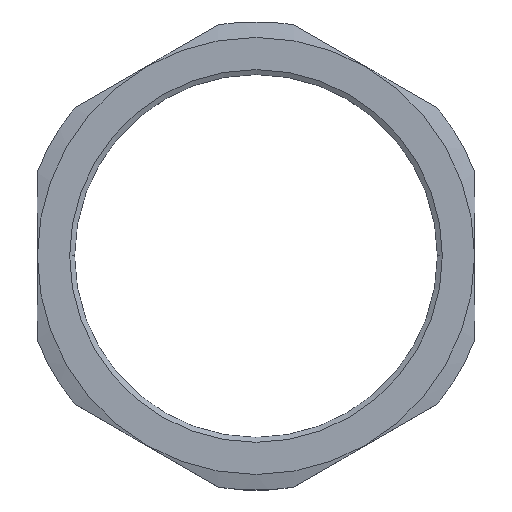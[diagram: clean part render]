
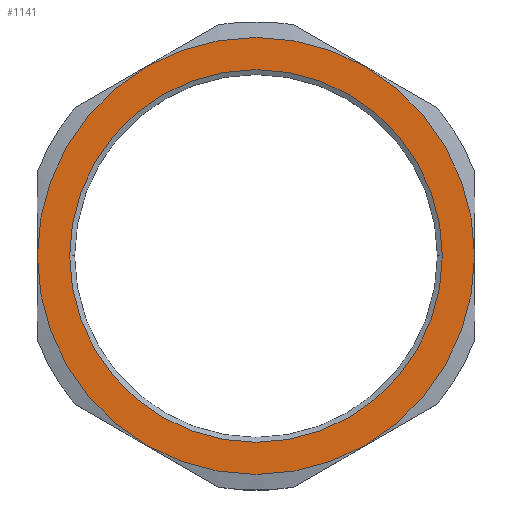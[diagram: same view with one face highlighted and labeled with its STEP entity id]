
A CAD part, top view. The second image highlights one B-rep face of the part: STEP entity #1141.
In plain terms, the highlighted planar face has unit normal (0, 0, 1).
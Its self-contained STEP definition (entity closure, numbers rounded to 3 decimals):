
#1139 = EDGE_LOOP ( 'NONE', ( #1169, #1183 ) ) ;
#1141 = ADVANCED_FACE ( 'NONE', ( #1924, #1923 ), #1922, .F. ) ;
#1163 = ORIENTED_EDGE ( 'NONE', *, *, #1381, .F. ) ;
#1169 = ORIENTED_EDGE ( 'NONE', *, *, #1170, .T. ) ;
#1170 = EDGE_CURVE ( 'NONE', #1331, #1322, #1471, .T. ) ;
#1173 = EDGE_CURVE ( 'NONE', #1386, #1384, #1407, .T. ) ;
#1183 = ORIENTED_EDGE ( 'NONE', *, *, #1321, .T. ) ;
#1241 = ORIENTED_EDGE ( 'NONE', *, *, #1173, .F. ) ;
#1247 = EDGE_LOOP ( 'NONE', ( #1241, #1163 ) ) ;
#1321 = EDGE_CURVE ( 'NONE', #1322, #1331, #1684, .T. ) ;
#1322 = VERTEX_POINT ( 'NONE', #1711 ) ;
#1331 = VERTEX_POINT ( 'NONE', #1756 ) ;
#1381 = EDGE_CURVE ( 'NONE', #1384, #1386, #1877, .T. ) ;
#1384 = VERTEX_POINT ( 'NONE', #1855 ) ;
#1386 = VERTEX_POINT ( 'NONE', #1863 ) ;
#1389 = DIRECTION ( 'NONE',  ( -1., 0., 0. ) ) ;
#1407 = CIRCLE ( 'NONE', #1431, 42.55 ) ;
#1412 = DIRECTION ( 'NONE',  ( 1., 0., 0. ) ) ;
#1413 = DIRECTION ( 'NONE',  ( 0., 0., 1. ) ) ;
#1430 = CARTESIAN_POINT ( 'NONE',  ( 0., 0., 0. ) ) ;
#1431 = AXIS2_PLACEMENT_3D ( 'NONE', #1430, #1413, #1412 ) ;
#1432 = DIRECTION ( 'NONE',  ( 0., 0., 1. ) ) ;
#1433 = CARTESIAN_POINT ( 'NONE',  ( 0., 0., 0. ) ) ;
#1434 = AXIS2_PLACEMENT_3D ( 'NONE', #1433, #1432, #1446 ) ;
#1446 = DIRECTION ( 'NONE',  ( 1., 0., 0. ) ) ;
#1471 = CIRCLE ( 'NONE', #1434, 49.9 ) ;
#1497 = DIRECTION ( 'NONE',  ( 0., 0., -1. ) ) ;
#1658 = DIRECTION ( 'NONE',  ( 1., 0., 0. ) ) ;
#1659 = DIRECTION ( 'NONE',  ( 0., 0., 1. ) ) ;
#1660 = CARTESIAN_POINT ( 'NONE',  ( 0., 0., 0. ) ) ;
#1661 = AXIS2_PLACEMENT_3D ( 'NONE', #1660, #1659, #1658 ) ;
#1684 = CIRCLE ( 'NONE', #1661, 49.9 ) ;
#1711 = CARTESIAN_POINT ( 'NONE',  ( 49.9, 0., 0. ) ) ;
#1756 = CARTESIAN_POINT ( 'NONE',  ( -49.9, 0., 0. ) ) ;
#1855 = CARTESIAN_POINT ( 'NONE',  ( -42.55, 0., 0. ) ) ;
#1856 = DIRECTION ( 'NONE',  ( 1., 0., 0. ) ) ;
#1857 = DIRECTION ( 'NONE',  ( 0., 0., 1. ) ) ;
#1858 = CARTESIAN_POINT ( 'NONE',  ( 0., 0., 0. ) ) ;
#1859 = AXIS2_PLACEMENT_3D ( 'NONE', #1858, #1857, #1856 ) ;
#1863 = CARTESIAN_POINT ( 'NONE',  ( 42.55, 0., 0. ) ) ;
#1877 = CIRCLE ( 'NONE', #1859, 42.55 ) ;
#1920 = CARTESIAN_POINT ( 'NONE',  ( 0., 0., 0. ) ) ;
#1921 = AXIS2_PLACEMENT_3D ( 'NONE', #1920, #1497, #1389 ) ;
#1922 = PLANE ( 'NONE',  #1921 ) ;
#1923 = FACE_BOUND ( 'NONE', #1247, .T. ) ;
#1924 = FACE_OUTER_BOUND ( 'NONE', #1139, .T. ) ;
